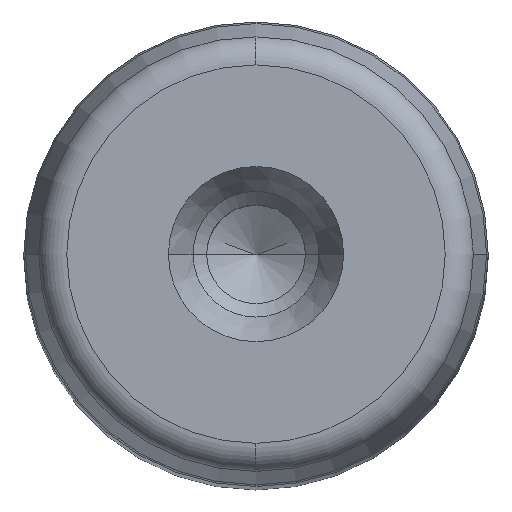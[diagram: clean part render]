
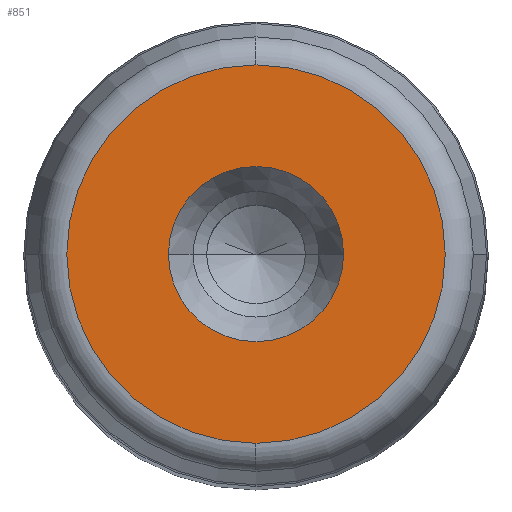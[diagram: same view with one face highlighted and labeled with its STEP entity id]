
A CAD part, top view. The second image highlights one B-rep face of the part: STEP entity #851.
In plain terms, the highlighted planar face has unit normal (0, 0, 1) as drawn and (0, 1, 0) by its records, which use the part's own axes.
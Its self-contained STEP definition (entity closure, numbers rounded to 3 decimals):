
#281=CARTESIAN_POINT('',(9.05,220.0,0.0));
#282=VERTEX_POINT('',#281);
#289=CARTESIAN_POINT('',(-9.05,220.0,0.));
#290=VERTEX_POINT('',#289);
#291=CARTESIAN_POINT('',(0.0,220.0,0.0));
#292=DIRECTION('',(0.0,1.0,0.0));
#293=DIRECTION('',(1.0,0.0,0.0));
#294=AXIS2_PLACEMENT_3D('',#291,#292,#293);
#295=CIRCLE('',#294,9.05);
#296=EDGE_CURVE('',#282,#290,#295,.T.);
#313=CARTESIAN_POINT('',(0.0,220.,19.554));
#314=VERTEX_POINT('',#313);
#324=CARTESIAN_POINT('',(0.,220.,-19.554));
#325=VERTEX_POINT('',#324);
#326=CARTESIAN_POINT('',(0.0,220.,0.0));
#327=DIRECTION('',(0.0,1.0,0.0));
#328=DIRECTION('',(1.0,0.0,0.0));
#329=AXIS2_PLACEMENT_3D('',#326,#327,#328);
#330=CIRCLE('',#329,19.554);
#331=EDGE_CURVE('',#325,#314,#330,.T.);
#812=CARTESIAN_POINT('',(19.554,220.,0.0));
#813=VERTEX_POINT('',#812);
#814=CARTESIAN_POINT('',(0.0,220.,0.0));
#815=DIRECTION('',(0.0,1.0,0.0));
#816=DIRECTION('',(1.0,0.0,0.0));
#817=AXIS2_PLACEMENT_3D('',#814,#815,#816);
#818=CIRCLE('',#817,19.554);
#819=EDGE_CURVE('',#813,#325,#818,.T.);
#821=CARTESIAN_POINT('',(0.0,220.,0.0));
#822=DIRECTION('',(0.0,1.0,0.0));
#823=DIRECTION('',(1.0,0.0,0.0));
#824=AXIS2_PLACEMENT_3D('',#821,#822,#823);
#825=CIRCLE('',#824,19.554);
#826=EDGE_CURVE('',#314,#813,#825,.T.);
#831=CARTESIAN_POINT('',(-21.51,220.0,-21.51));
#832=DIRECTION('',(0.0,1.0,0.0));
#833=DIRECTION('',(0.0,0.0,1.0));
#834=AXIS2_PLACEMENT_3D('',#831,#832,#833);
#835=PLANE('',#834);
#836=ORIENTED_EDGE('',*,*,#819,.T.);
#837=ORIENTED_EDGE('',*,*,#331,.T.);
#838=ORIENTED_EDGE('',*,*,#826,.T.);
#839=EDGE_LOOP('',(#836,#837,#838));
#840=FACE_OUTER_BOUND('',#839,.T.);
#841=ORIENTED_EDGE('',*,*,#296,.F.);
#842=CARTESIAN_POINT('',(0.0,220.0,0.0));
#843=DIRECTION('',(0.0,1.0,0.0));
#844=DIRECTION('',(1.0,0.0,0.0));
#845=AXIS2_PLACEMENT_3D('',#842,#843,#844);
#846=CIRCLE('',#845,9.05);
#847=EDGE_CURVE('',#290,#282,#846,.T.);
#848=ORIENTED_EDGE('',*,*,#847,.F.);
#849=EDGE_LOOP('',(#841,#848));
#850=FACE_BOUND('',#849,.T.);
#851=ADVANCED_FACE('',(#840,#850),#835,.T.);
